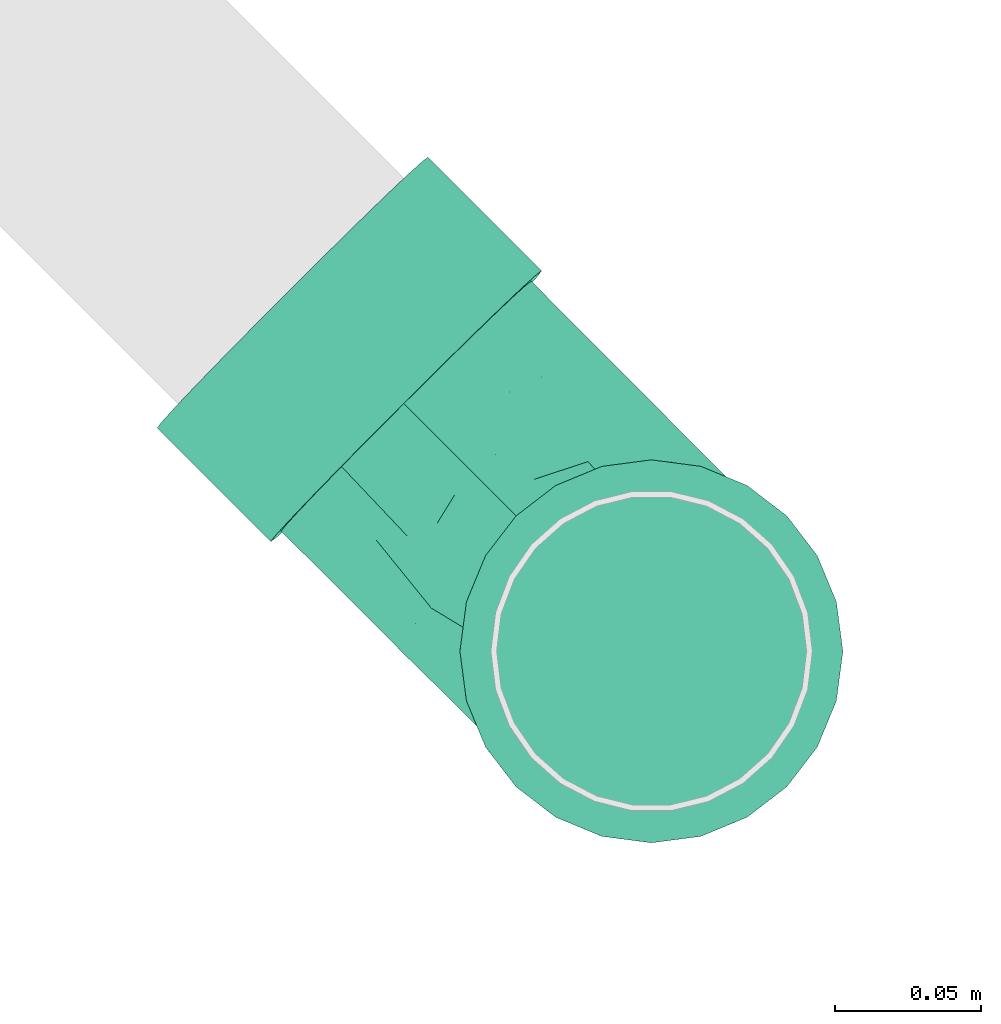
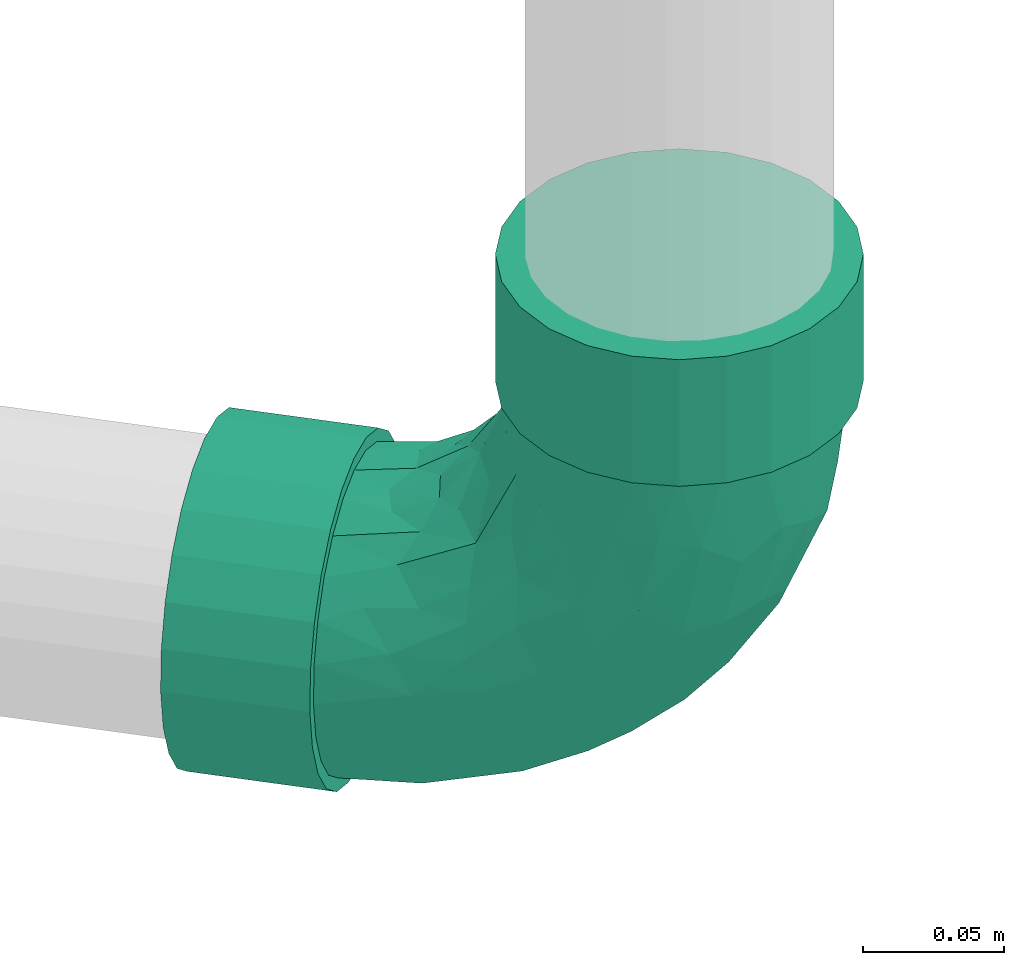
# One storey, part 71 of 83: 1 flow fitting.
"""IFC2X3 building model written with IfcOpenShell, lengths in millimetres."""

import ifcopenshell
import ifcopenshell.guid

model = None  # the IFC model being written
_history = None  # IfcOwnerHistory: only IFC2X3 demands one
_inside = {}  # id of a spatial element -> (the spatial element, [elements in it])
_under = {}  # id of a project, library or spatial element -> (it, [spatial elements below it])
_declared = {}  # id of a project -> (the project, [libraries it declares])
_typed = {}  # id of a type object -> (the type object, [elements of that type])
_made_of = {}  # id of a material, layer set ... -> (it, [elements and type objects made of it])


def new_model(schema):
    """Start an empty IFC model of exactly this schema.

    Asked for "IFC4X3", IfcOpenShell would pick the latest addendum, in which some entities
    have other attributes; the version numbers below select the first issue.
    IFC2X3 requires an IfcOwnerHistory on every rooted entity: one is made here for all.
    """
    global model, _history
    if schema == "IFC4X3":
        model = ifcopenshell.file(schema_version=(4, 3, 0, 0))
    else:
        model = ifcopenshell.file(schema=schema)
    _inside.clear()
    _under.clear()
    _declared.clear()
    _typed.clear()
    _made_of.clear()
    _history = None
    if model.schema == "IFC2X3":
        org = make("IfcOrganization", Name="unknown")
        user = make(
            "IfcPersonAndOrganization",
            ThePerson=make("IfcPerson", FamilyName="unknown"),
            TheOrganization=org,
        )
        app = make(
            "IfcApplication",
            ApplicationDeveloper=org,
            Version="unknown",
            ApplicationFullName="unknown",
            ApplicationIdentifier="unknown",
        )
        _history = make(
            "IfcOwnerHistory",
            OwningUser=user,
            OwningApplication=app,
            ChangeAction="ADDED",
            CreationDate=0,
        )
    return model


def make(cls, **values):
    """One entity of the class cls with the attributes given. An attribute that is None is left unset."""
    return model.create_entity(
        cls, **{name: value for name, value in values.items() if value is not None}
    )


def entity(cls, *values):
    """Any entity or typed value of the class cls, its attributes in the order of the schema. None: left unset."""
    e = model.create_entity(cls)
    for i, value in enumerate(values):
        if value is not None:
            e[i] = value
    return e


def rooted(cls, **values):
    """An entity with a GlobalId (a new one), such as an element, a storey or a relation."""
    return make(cls, GlobalId=ifcopenshell.guid.new(), OwnerHistory=_history, **values)


def si_unit(unit_type, name, prefix=None):
    """IfcSIUnit, for example si_unit("LENGTHUNIT", "METRE", prefix="MILLI")."""
    return make("IfcSIUnit", UnitType=unit_type, Prefix=prefix, Name=name)


def converted_unit(unit_type, name, factor, base, dimensions=None, offset=None):
    """IfcConversionBasedUnit, such as the inch: factor (a typed value) times the base unit."""
    return make(
        "IfcConversionBasedUnit"
        if offset is None
        else "IfcConversionBasedUnitWithOffset",
        ConversionOffset=offset,
        Dimensions=None
        if dimensions is None
        else entity("IfcDimensionalExponents", *dimensions),
        UnitType=unit_type,
        Name=name,
        ConversionFactor=make(
            "IfcMeasureWithUnit", ValueComponent=factor, UnitComponent=base
        ),
    )


def derived_unit(unit_type, elements):
    """IfcDerivedUnit: a product of units, each with its exponent."""
    return make(
        "IfcDerivedUnit",
        Elements=[
            make("IfcDerivedUnitElement", Unit=unit, Exponent=power)
            for unit, power in elements
        ],
        UnitType=unit_type,
    )


def assignment(units):
    """IfcUnitAssignment: the units of a project."""
    return None if units is None else make("IfcUnitAssignment", Units=units)


def point(xyz):
    """IfcCartesianPoint."""
    return None if xyz is None else make("IfcCartesianPoint", Coordinates=xyz)


def direction(xyz):
    """IfcDirection."""
    return None if xyz is None else make("IfcDirection", DirectionRatios=xyz)


def frame(location, z_axis=None, x_axis=None):
    """IfcAxis2Placement3D, a coordinate frame: its origin and axes. An axis left out is left unset."""
    return make(
        "IfcAxis2Placement3D",
        Location=point(location),
        Axis=direction(z_axis),
        RefDirection=direction(x_axis),
    )


def origin_with_axes():
    """The frame at (0, 0, 0) with the z axis (0, 0, 1) and the x axis (1, 0, 0) written out."""
    return frame((0.0, 0.0, 0.0), z_axis=(0.0, 0.0, 1.0), x_axis=(1.0, 0.0, 0.0))


def place(relative_to, where):
    """IfcLocalPlacement: puts the frame where relative to a parent placement (None: the world)."""
    return make(
        "IfcLocalPlacement", PlacementRelTo=relative_to, RelativePlacement=where
    )


def context(
    kind, dimensions, precision=None, world=None, true_north=None, identifier=None
):
    """IfcGeometricRepresentationContext, for example the 3D "Model" context."""
    return make(
        "IfcGeometricRepresentationContext",
        ContextIdentifier=identifier,
        ContextType=kind,
        CoordinateSpaceDimension=dimensions,
        Precision=precision,
        WorldCoordinateSystem=world,
        TrueNorth=true_north,
    )


def subcontext(parent, identifier, kind, view, scale=None):
    """IfcGeometricRepresentationSubContext, for example "Body" below "Model"."""
    return make(
        "IfcGeometricRepresentationSubContext",
        ContextIdentifier=identifier,
        ContextType=kind,
        ParentContext=parent,
        TargetScale=scale,
        TargetView=view,
    )


def project(units=None, contexts=None):
    """IfcProject with its units and contexts."""
    return rooted(
        "IfcProject",
        Name="project",
        RepresentationContexts=contexts,
        UnitsInContext=assignment(units),
    )


def spatial(cls, under=None, at=None, **own):
    """A site, building, storey or space (cls), placed at a placement, below another one or the project."""
    s = rooted(cls, ObjectPlacement=at, **own)
    if under is not None:
        _under.setdefault(under.id(), (under, []))[1].append(s)
    return s


def faces_of(points, faces, orient=None, outer=None):
    """IfcFace entities. A face is a list of loops; a loop is a list of indices into points, from 0.

    orient and outer hold one flag for each loop. By default every Orientation is true, the
    first loop of a face is its IfcFaceOuterBound and the others are IfcFaceBound.
    """
    made = []
    for i, loops in enumerate(faces):
        bounds = []
        for j, loop in enumerate(loops):
            is_outer = j == 0 if outer is None else outer[i][j]
            bounds.append(
                make(
                    "IfcFaceOuterBound" if is_outer else "IfcFaceBound",
                    Bound=make("IfcPolyLoop", Polygon=[points[k] for k in loop]),
                    Orientation=True if orient is None else orient[i][j],
                )
            )
        made.append(make("IfcFace", Bounds=bounds))
    return made


def open_shell(faces, orient=None, outer=None):
    """The faces of one IfcOpenShell. surface_model builds it on its shared points."""
    return ("IfcOpenShell", faces, orient, outer)


def surface_model(cls, points, shells):
    """IfcFaceBasedSurfaceModel or IfcShellBasedSurfaceModel (cls): surfaces that need not close."""
    shared = [point(p) for p in points]
    made = [make(c, CfsFaces=faces_of(shared, fs, o, b)) for c, fs, o, b in shells]
    if cls == "IfcFaceBasedSurfaceModel":
        return make(cls, FbsmFaces=made)
    return make(cls, SbsmBoundary=made)


def shape(context_of_items, identifier, shape_type, items):
    """IfcShapeRepresentation: the items that make up one representation, for example the "Body"."""
    return make(
        "IfcShapeRepresentation",
        ContextOfItems=context_of_items,
        RepresentationIdentifier=identifier,
        RepresentationType=shape_type,
        Items=items,
    )


def source(mapping_origin, context_of_items, identifier, shape_type, items):
    """IfcRepresentationMap: a shape defined once, which mapped items show again and again."""
    return make(
        "IfcRepresentationMap",
        MappingOrigin=mapping_origin,
        MappedRepresentation=shape(context_of_items, identifier, shape_type, items),
    )


def transform(
    local_origin,
    x_axis=None,
    y_axis=None,
    z_axis=None,
    scale=None,
    scale2=None,
    scale3=None,
    uniform=True,
):
    """IfcCartesianTransformationOperator3D, or its non-uniform kind. x_axis, y_axis, z_axis: its Axis1, 2, 3."""
    if uniform:
        return make(
            "IfcCartesianTransformationOperator3D",
            Axis1=direction(x_axis),
            Axis2=direction(y_axis),
            LocalOrigin=point(local_origin),
            Scale=scale,
            Axis3=direction(z_axis),
        )
    return make(
        "IfcCartesianTransformationOperator3DnonUniform",
        Axis1=direction(x_axis),
        Axis2=direction(y_axis),
        LocalOrigin=point(local_origin),
        Scale=scale,
        Axis3=direction(z_axis),
        Scale2=scale2,
        Scale3=scale3,
    )


def mapped(mapping_source, mapping_target):
    """IfcMappedItem: shows the shape of a source again, moved by a transform."""
    return make(
        "IfcMappedItem", MappingSource=mapping_source, MappingTarget=mapping_target
    )


def made_of(thing, what):
    """Note that an element or type object is made of a material, layer set ...; save() writes the relation."""
    if what is not None:
        _made_of.setdefault(what.id(), (what, []))[1].append(thing)
    return thing


def type_object(cls, material=None, **own):
    """A type object (cls), such as IfcWallType, which elements share."""
    return made_of(rooted(cls, **own), material)


def element(
    cls,
    number,
    at=None,
    inside=None,
    cuts=None,
    type_object=None,
    material=None,
    context=None,
    identifier="Body",
    shape_type=None,
    held_by="IfcProductDefinitionShape",
    body=None,
    shapes=None,
    **own,
):
    """One element of the class cls, such as IfcWall. Its Tag is "e" and its number.

    at: its placement. inside: the storey or other place that contains it. cuts: it is an
    opening in that element (IfcRelVoidsElement). A single representation is given by context,
    identifier, shape_type and body (its items); several are given by shapes. held_by: the class
    of the entity that holds the representations. save() writes the other relations.
    """
    e = rooted(cls, Tag="e%d" % number, ObjectPlacement=at, **own)
    if body is not None:
        shapes = [shape(context, identifier, shape_type, body)]
    if shapes is not None:
        e.Representation = make(held_by, Representations=shapes)
    if inside is not None:
        _inside.setdefault(inside.id(), (inside, []))[1].append(e)
    if cuts is not None:
        rooted(
            "IfcRelVoidsElement", RelatingBuildingElement=cuts, RelatedOpeningElement=e
        )
    if type_object is not None:
        _typed.setdefault(type_object.id(), (type_object, []))[1].append(e)
    return made_of(e, material)


def aggregate(whole, parts):
    """IfcRelAggregates: a whole, such as a stair, and the parts it consists of."""
    return rooted("IfcRelAggregates", RelatingObject=whole, RelatedObjects=parts)


def save(model, path):
    """Write the relations noted so far, then the file.

    IfcRelAggregates (storeys below a building ...), IfcRelContainedInSpatialStructure (elements
    in a storey), IfcRelDefinesByType, IfcRelAssociatesMaterial and IfcRelDeclares: one each for
    every whole, place, type object, material and project.
    """
    for whole, parts in _under.values():
        aggregate(whole, parts)
    for where, things in _inside.values():
        rooted(
            "IfcRelContainedInSpatialStructure",
            RelatedElements=things,
            RelatingStructure=where,
        )
    for kind, things in _typed.values():
        rooted("IfcRelDefinesByType", RelatedObjects=things, RelatingType=kind)
    for what, things in _made_of.values():
        rooted("IfcRelAssociatesMaterial", RelatedObjects=things, RelatingMaterial=what)
    for by, libraries in _declared.values():
        rooted("IfcRelDeclares", RelatingContext=by, RelatedDefinitions=libraries)
    model.write(path)


model = new_model("IFC2X3")

# Units and contexts
model_context = context("Model", 3, precision=0.01, world=frame((0.0, 4.29681676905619e-09, 0.0)), true_north=direction((4.01073788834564e-13, 1.0)))
plan_context = context("Plan", 3, precision=0.01, world=frame((0.0, 4.29681676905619e-09, 0.0)), true_north=direction((4.01073788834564e-13, 1.0)))
body_context = subcontext(model_context, "Body", "Model", "MODEL_VIEW")
ifc_project = project(units=[converted_unit("PLANEANGLEUNIT", "DEGREE", entity("IfcPositiveLengthMeasure", 0.0174532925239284), si_unit("PLANEANGLEUNIT", "RADIAN"), dimensions=[0, 0, 0, 0, 0, 0, 0]), si_unit("AREAUNIT", "SQUARE_METRE"), si_unit("LENGTHUNIT", "METRE", prefix="MILLI"), si_unit("MASSUNIT", "GRAM", prefix="KILO"), si_unit("POWERUNIT", "WATT"), si_unit("PRESSUREUNIT", "PASCAL"), si_unit("FORCEUNIT", "NEWTON", prefix="KILO"), si_unit("ELECTRICVOLTAGEUNIT", "VOLT"), si_unit("ELECTRICCURRENTUNIT", "AMPERE"), si_unit("THERMODYNAMICTEMPERATUREUNIT", "DEGREE_CELSIUS"), si_unit("TIMEUNIT", "SECOND"), si_unit("VOLUMEUNIT", "CUBIC_METRE"), derived_unit("LINEARVELOCITYUNIT", [(si_unit("LENGTHUNIT", "METRE"), 1), (si_unit("TIMEUNIT", "SECOND"), -1)]), derived_unit("VOLUMETRICFLOWRATEUNIT", [(si_unit("VOLUMEUNIT", "CUBIC_METRE"), 1), (si_unit("TIMEUNIT", "SECOND"), -1)]), derived_unit("THERMALTRANSMITTANCEUNIT", [(si_unit("POWERUNIT", "WATT"), 1), (si_unit("THERMODYNAMICTEMPERATUREUNIT", "KELVIN"), -1), (si_unit("AREAUNIT", "SQUARE_METRE"), -1)]), derived_unit("SOUNDPRESSUREUNIT", [(si_unit("PRESSUREUNIT", "PASCAL"), 1)])], contexts=[model_context, plan_context])

# Site, building, storey
site_placement = place(None, frame((0.0, -4.29681676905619e-09, 0.0), z_axis=(0.0, 0.0, 1.0), x_axis=(1.0, 0.0, 0.0)))
site = spatial("IfcSite", under=ifc_project, at=site_placement, Name="ENGM", CompositionType="ELEMENT")
building_placement = place(site_placement, frame((0.0, 4.29681676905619e-09, 0.0), z_axis=(0.0, 0.0, 1.0), x_axis=(1.0, 0.0, 0.0)))
building = spatial("IfcBuilding", under=site, at=building_placement, Name="TI", CompositionType="ELEMENT")
storey_placement = place(building_placement, frame((0.0, 0.0, 204000.0), z_axis=(0.0, 0.0, 1.0), x_axis=(1.0, 0.0, 0.0)))
storey = spatial("IfcBuildingStorey", under=building, at=storey_placement, Name="Nivå D", CompositionType="ELEMENT", Elevation=204000.0)

# Flow fitting
pipe_fitting_type = type_object("IfcPipeFittingType", Name="magi_sewer_bend_001", PredefinedType="BEND")
shared_shape = source(origin_with_axes(), body_context, "Body", "SurfaceModel", [
    surface_model("IfcShellBasedSurfaceModel", [(-173.60419, -16.95265, -63.26814), (-173.60419, -32.75, -56.72466), (-173.60419, -46.3155, -46.3155), (-173.60419, -63.26814, -16.95265), (-173.60419, 56.72466, -32.75), (-173.60419, -56.72466, -32.75), (-173.60419, -65.5, 0.0), (-173.60419, 16.95265, -63.26814), (-173.60419, 0.0, -65.5), (-173.60419, 32.75, -56.72466), (-173.60419, 46.3155, -46.3155), (-173.60419, 63.26814, -16.95265), (-173.60419, -63.26814, 16.95265), (-173.60419, -56.72466, 32.75), (-173.60419, -46.3155, 46.3155), (-173.60419, 63.26814, 16.95265), (-173.60419, -16.95265, 63.26814), (-173.60419, 0.0, 65.5), (-173.60419, -32.75, 56.72466), (-173.60419, 46.3155, 46.3155), (-173.60419, 56.72466, 32.75), (-173.60419, 65.5, 0.0), (-173.60419, 16.95265, 63.26814), (-173.60419, 32.75, 56.72466), (-118.6042, -16.95265, 63.26814), (-118.6042, 16.95265, 63.26814), (-118.6042, 0.0, 65.5), (-118.6042, -46.3155, 46.3155), (-118.6042, -32.75, 56.72466), (-118.6042, -56.72466, 32.75), (-118.6042, -63.26814, 16.95265), (-118.6042, 46.3155, 46.3155), (-118.6042, 32.75, 56.72466), (-118.6042, 63.26814, 16.95265), (-118.6042, 56.72466, 32.75), (-118.6042, 63.26814, -16.95265), (-118.6042, 65.5, 0.0), (-118.6042, -63.26814, -16.95265), (-118.6042, 32.75, -56.72466), (-118.6042, -65.5, 0.0), (-118.6042, -16.95265, -63.26814), (-118.6042, -56.72466, -32.75), (-118.6042, -46.3155, -46.3155), (-118.6042, -32.75, -56.72466), (-118.6042, 0.0, -65.5), (-118.6042, 46.3155, -46.3155), (-118.6042, 56.72466, -32.75), (-118.6042, 16.95265, -63.26814), (-59.7841, 174.8346, 16.95265), (-53.24193, 174.70376, 32.75), (-42.83484, 174.49562, 46.3155), (-29.27206, 174.22436, 56.72466), (-13.47787, 173.90848, 63.26814), (-62.01551, 174.87922, 0.0), (3.47139, 173.56949, 65.5), (-59.7841, 174.8346, -16.95265), (-42.83484, 174.49562, -46.3155), (-53.24193, 174.70376, -32.75), (-29.27206, 174.22436, -56.72466), (-13.47787, 173.90848, -63.26814), (20.42065, 173.23051, 63.26814), (36.21484, 172.91463, 56.72466), (49.77763, 172.64337, 46.3155), (20.42065, 173.23051, -63.26814), (66.72688, 172.30438, 16.95265), (68.9583, 172.25974, 0.0), (60.18471, 172.43522, 32.75), (49.77763, 172.64337, -46.3155), (36.21484, 172.91463, -56.72466), (3.47139, 173.56949, -65.5), (66.72688, 172.30438, -16.95265), (60.18471, 172.43522, -32.75), (65.6271, 117.31538, 16.95265), (19.32087, 118.2415, -63.26814), (67.85851, 117.27075, 0.0), (48.67784, 117.65436, 46.3155), (59.08493, 117.44622, 32.75), (35.11506, 117.92561, 56.72466), (19.32087, 118.2415, 63.26814), (-30.37184, 119.23535, -56.72466), (65.6271, 117.31538, -16.95265), (48.67784, 117.65436, -46.3155), (59.08493, 117.44622, -32.75), (35.11506, 117.92561, -56.72466), (2.37161, 118.58048, -65.5), (-14.57765, 118.91947, 63.26814), (-60.88388, 119.84559, 16.95265), (-30.37184, 119.23535, 56.72466), (-43.93462, 119.5066, 46.3155), (-54.34171, 119.71475, 32.75), (-43.93462, 119.5066, -46.3155), (-14.57765, 118.91947, -63.26814), (-60.88388, 119.84559, -16.95265), (-54.34171, 119.71475, -32.75), (-63.11529, 119.89022, 0.0), (2.37161, 118.58048, 65.5), (-118.6042, 15.65855, -58.43851), (-118.6042, 0.0, -60.5), (-118.6042, 58.43851, -15.65855), (-118.6042, 30.25, -52.39454), (-118.6042, 52.39454, -30.25), (-118.6042, 42.77996, -42.77996), (-118.6042, -60.5, 0.0), (-118.6042, -30.25, -52.39454), (-118.6042, -42.77996, -42.77996), (-118.6042, -15.65855, -58.43851), (-118.6042, -58.43851, -15.65855), (-118.6042, -52.39454, -30.25), (-118.6042, -58.43851, 15.65855), (-118.6042, 58.43851, 15.65855), (-118.6042, 52.39454, 30.25), (-118.6042, 42.77996, 42.77996), (-118.6042, 30.25, 52.39454), (-118.6042, 15.65855, 58.43851), (-118.6042, -52.39454, 30.25), (-118.6042, -42.77996, 42.77996), (-118.6042, -30.25, 52.39454), (-118.6042, -15.65855, 58.43851), (-118.6042, 0.0, 60.5), (-118.6042, 60.5, 0.0), (-56.05522, 119.74902, -15.65855), (2.37161, 118.58048, -60.5), (-13.28381, 118.8936, -58.43851), (-40.3998, 119.43591, -42.77996), (-27.87234, 119.18537, -52.39454), (-50.01245, 119.62816, -30.25), (45.14302, 117.72505, -42.77996), (18.02703, 118.26737, -58.43851), (32.61556, 117.9756, -52.39454), (54.75567, 117.53281, -30.25), (62.85951, 117.37072, 0.0), (60.79844, 117.41195, -15.65855), (-56.05522, 119.74902, 15.65855), (60.79844, 117.41195, 15.65855), (-40.3998, 119.43591, 42.77996), (-50.01245, 119.62816, 30.25), (-27.87234, 119.18537, 52.39454), (2.37161, 118.58048, 60.5), (-13.28381, 118.8936, 58.43851), (45.14302, 117.72505, 42.77996), (54.75567, 117.53281, 30.25), (32.61556, 117.9756, 52.39454), (18.02703, 118.26737, 58.43851), (-58.11629, 119.79024, 0.0), (-86.57674, -47.00644, 34.01552), (-80.37521, -53.23669, 19.17393), (-72.21311, -54.47113, 0.0), (-88.68988, -56.61241, 0.0), (39.25546, 49.68003, 30.54518), (28.66616, 46.27335, 41.37068), (27.16995, 25.74946, 28.93082), (15.81257, 44.81273, 50.37401), (15.1627, 18.9902, 37.81625), (-86.51062, -22.83864, 54.44796), (-45.11996, -14.91333, 50.37401), (-58.5762, -0.72667, 58.68119), (36.34931, 76.09575, 45.09809), (-76.80738, -34.82043, 45.09809), (-43.14835, -41.90419, 15.30942), (-50.55853, -45.62808, 0.0), (-28.90396, -36.78503, 0.0), (-59.68998, 103.8016, 10.24181), (-68.39392, 84.76915, 13.0184), (-54.83102, 104.17543, 25.10611), (-102.68773, 36.62489, 49.25096), (-92.38842, 50.40649, 39.65018), (-81.41542, 68.6004, 20.98262), (-71.9465, 71.1947, 29.61857), (-19.83, 58.4093, 60.36332), (-43.3625, 44.23842, 58.9718), (-34.92514, 25.87888, 60.23189), (-90.44261, -8.02095, 59.48073), (-20.53966, 102.73187, 56.64587), (-6.53824, 88.44842, 60.34684), (-82.62908, 9.2652, 60.39181), (-85.90186, 60.08738, 31.15089), (-99.15818, 59.71211, 21.10068), (-103.11486, 61.65642, 9.99729), (-83.99312, 70.39369, 9.86726), (-26.2876, -26.64963, 28.93082), (-19.2896, -14.77994, 37.81625), (-46.77184, -27.4798, 41.58458), (-76.25411, 77.79444, 0.0), (-95.73157, 64.99024, 0.0), (-90.95529, 23.75207, 57.13424), (-14.57879, 38.91388, 59.39465), (-28.43074, 10.99116, 56.64774), (-4.57001, 31.69489, 55.60405), (-9.71238, 9.90857, 49.65779), (44.27483, 45.29375, 14.99022), (55.90421, 71.10946, 0.0), (54.83322, 79.29461, 19.17393), (-64.65938, 25.63342, 59.40981), (-57.82067, 14.72053, 60.48301), (48.72823, 85.61949, 34.01552), (9.82784, 90.26414, 59.48073), (-50.45505, -38.25421, 30.54518), (58.37453, 87.54012, 0.0), (-47.88788, 76.22338, 47.63385), (-47.7188, 96.45268, 39.31497), (-62.34977, 66.67687, 42.76198), (-24.45504, 80.66922, 57.57755), (-63.063, 97.01197, 0.0), (-36.39399, 92.2245, 50.11081), (-43.92336, 64.58333, 53.93727), (24.56394, 86.03664, 54.44796), (-62.88992, 40.49657, 55.91736), (-62.77044, 53.82504, 50.27797), (-81.60697, 40.88913, 50.86379), (-33.60348, 61.8567, 57.92947), (1.89781, 58.54996, 58.68119), (6.58024, -6.71317, 17.75991), (-10.22895, -22.70085, 0.0), (8.44606, -8.61667, 0.0), (23.47994, 12.83656, 18.59969), (13.59847, 6.43456, 27.40623), (-13.3035, -23.21857, 18.59969), (22.90085, 9.77298, 0.0), (-0.41884, 0.4273, 37.04023), (-3.35876, -9.95111, 28.36013), (37.35564, 28.16263, 0.0), (-60.36607, 85.23563, 29.79083), (46.62993, 49.63605, 0.0), (-99.17872, 36.97075, -49.52136), (-46.8373, -27.73515, -41.37068), (-45.11996, -14.91333, -50.37401), (-19.2896, -14.77994, -37.81625), (-88.29999, 8.30555, -60.34684), (24.56394, 86.03664, -54.44796), (15.81257, 44.81273, -50.37401), (1.89781, 58.54996, -58.68119), (-102.30062, 22.58978, -56.64587), (-68.39392, 84.76915, -13.01839), (-98.59644, 61.7701, -15.49507), (-59.68998, 103.8016, -10.24181), (-83.99312, 70.39369, -9.86726), (-50.45505, -38.25421, -30.54518), (-26.2876, -26.64963, -28.93081), (-56.67049, 47.97678, -54.97924), (-61.06812, 34.39679, -58.05474), (-76.02014, 43.80703, -50.81116), (-76.80738, -34.82043, -45.09809), (-58.0011, 20.99399, -60.36332), (-43.3625, 44.23842, -58.9718), (-25.17534, 35.43563, -60.23189), (-91.94397, 50.52819, -39.69857), (-80.37521, -53.23669, -19.17393), (-57.59908, 99.94603, -21.72707), (-59.54819, 85.78356, -30.51451), (-39.23093, 63.68711, -55.91736), (-21.92858, 91.41204, -57.13424), (-24.33537, 65.15901, -59.40981), (-86.57674, -47.00644, -34.01552), (-13.56141, 58.10346, -60.48301), (-86.51062, -22.83864, -54.44796), (-61.7595, 55.92844, -49.63222), (-39.24914, 82.40827, -50.86379), (-46.17002, -43.36028, -14.99022), (36.34931, 76.09575, -45.09809), (28.40956, 46.213, -41.58458), (-90.44261, -8.02095, -59.48073), (-95.92373, 57.383, -28.32277), (-75.7824, 65.39586, -32.82972), (48.72823, 85.61949, -34.01552), (39.25546, 49.68003, -30.54518), (-81.41542, 68.6004, -20.98262), (-7.6111, 82.79782, -60.39181), (27.16995, 25.74946, -28.93081), (15.1627, 18.9902, -37.81625), (-34.56422, 103.39955, -49.25096), (54.83322, 79.29461, -19.17393), (9.82784, 90.26414, -59.48073), (-50.96853, 78.69792, -44.28035), (-47.41487, 97.72425, -39.17701), (-38.61458, 15.35399, -59.39465), (-10.42046, 28.64483, -56.64774), (-31.59717, 5.20286, -55.60405), (42.75861, 42.30181, -15.30942), (-3.35876, -9.95111, -28.36012), (-13.3035, -23.21858, -18.59969), (-80.16409, 26.06321, -57.57755), (-65.41679, 63.67057, -42.76198), (-58.5762, -0.72667, -58.68119), (-9.71238, 9.90857, -49.65779), (6.58024, -6.71317, -17.75991), (13.59847, 6.43456, -27.40623), (-0.41884, 0.4273, -37.04022), (23.47995, 12.83656, -18.59969)], [open_shell([[[0, 1, 2]], [[0, 2, 3]], [[0, 3, 4]], [[3, 2, 5]], [[4, 3, 6]], [[0, 7, 8]], [[0, 9, 7]], [[10, 9, 0]], [[0, 4, 10]], [[6, 11, 4]], [[6, 12, 11]], [[12, 13, 14]], [[11, 14, 15]], [[16, 17, 14]], [[16, 14, 18]], [[15, 14, 17]], [[15, 19, 20]], [[21, 11, 15]], [[19, 22, 23]], [[22, 19, 15]], [[17, 22, 15]], [[11, 12, 14]], [[24, 25, 26]], [[27, 24, 28]], [[27, 29, 30]], [[24, 27, 25]], [[30, 25, 27]], [[25, 31, 32]], [[31, 25, 33]], [[31, 33, 34]], [[25, 30, 33]], [[33, 35, 36]], [[33, 30, 35]], [[37, 38, 39]], [[40, 37, 41]], [[42, 43, 40]], [[42, 40, 41]], [[44, 37, 40]], [[39, 45, 46]], [[46, 35, 39]], [[38, 44, 47]], [[38, 45, 39]], [[38, 37, 44]], [[39, 35, 30]], [[35, 11, 36]], [[46, 4, 35]], [[47, 44, 7]], [[45, 10, 46]], [[35, 4, 11]], [[11, 21, 36]], [[9, 38, 7]], [[9, 10, 45]], [[38, 47, 7]], [[10, 4, 46]], [[45, 38, 9]], [[44, 8, 7]], [[0, 40, 43]], [[42, 1, 43]], [[5, 41, 37]], [[42, 41, 2]], [[3, 37, 39]], [[40, 0, 8]], [[43, 1, 0]], [[42, 2, 1]], [[41, 5, 2]], [[3, 5, 37]], [[39, 6, 3]], [[40, 8, 44]], [[30, 12, 39]], [[29, 13, 30]], [[28, 18, 27]], [[27, 14, 29]], [[30, 13, 12]], [[12, 6, 39]], [[17, 16, 24]], [[16, 18, 28]], [[14, 27, 18]], [[14, 13, 29]], [[24, 16, 28]], [[24, 26, 17]], [[22, 25, 32]], [[31, 23, 32]], [[20, 34, 33]], [[31, 34, 19]], [[15, 33, 36]], [[25, 22, 17]], [[32, 23, 22]], [[31, 19, 23]], [[34, 20, 19]], [[15, 20, 33]], [[36, 21, 15]], [[25, 17, 26]], [[48, 49, 50]], [[48, 50, 51]], [[48, 52, 53]], [[52, 48, 51]], [[53, 52, 54]], [[55, 56, 57]], [[56, 55, 53]], [[54, 56, 53]], [[54, 58, 56]], [[54, 59, 58]], [[54, 60, 59]], [[60, 61, 62]], [[63, 60, 62]], [[64, 65, 62]], [[64, 62, 66]], [[63, 62, 65]], [[63, 67, 68]], [[69, 59, 63]], [[67, 70, 71]], [[70, 67, 63]], [[65, 70, 63]], [[63, 59, 60]], [[72, 73, 74]], [[75, 72, 76]], [[75, 77, 78]], [[72, 75, 73]], [[73, 75, 79]], [[80, 81, 82]], [[81, 80, 73]], [[81, 73, 83]], [[80, 74, 73]], [[73, 79, 84]], [[75, 78, 85]], [[75, 85, 79]], [[86, 85, 87]], [[88, 89, 86]], [[88, 86, 87]], [[79, 85, 86]], [[86, 90, 79]], [[91, 84, 79]], [[86, 92, 93]], [[90, 86, 93]], [[92, 86, 94]], [[85, 78, 95]], [[91, 59, 84]], [[79, 58, 91]], [[92, 94, 55]], [[90, 56, 79]], [[91, 58, 59]], [[59, 69, 84]], [[57, 93, 55]], [[57, 56, 90]], [[93, 92, 55]], [[56, 58, 79]], [[90, 93, 57]], [[94, 53, 55]], [[48, 86, 89]], [[88, 49, 89]], [[51, 87, 85]], [[88, 87, 50]], [[52, 85, 95]], [[86, 48, 53]], [[89, 49, 48]], [[88, 50, 49]], [[87, 51, 50]], [[52, 51, 85]], [[95, 54, 52]], [[86, 53, 94]], [[78, 60, 95]], [[77, 61, 78]], [[76, 66, 75]], [[75, 62, 77]], [[78, 61, 60]], [[60, 54, 95]], [[65, 64, 72]], [[64, 66, 76]], [[62, 75, 66]], [[62, 61, 77]], [[72, 64, 76]], [[72, 74, 65]], [[70, 80, 82]], [[81, 71, 82]], [[68, 83, 73]], [[81, 83, 67]], [[63, 73, 84]], [[80, 70, 65]], [[82, 71, 70]], [[81, 67, 71]], [[83, 68, 67]], [[63, 68, 73]], [[84, 69, 63]], [[80, 65, 74]], [[96, 97, 98]], [[99, 96, 98]], [[98, 100, 101]], [[99, 98, 101]], [[102, 98, 97]], [[103, 104, 105]], [[104, 97, 105]], [[106, 102, 107]], [[104, 107, 102]], [[104, 102, 97]], [[102, 108, 98]], [[109, 98, 108]], [[110, 109, 111]], [[112, 109, 108]], [[111, 109, 112]], [[113, 112, 108]], [[114, 115, 108]], [[116, 108, 115]], [[117, 118, 116]], [[108, 116, 118]], [[118, 113, 108]], [[119, 98, 109]], [[120, 121, 122]], [[123, 122, 124]], [[123, 125, 120]], [[123, 120, 122]], [[121, 120, 126]], [[127, 126, 128]], [[127, 121, 126]], [[129, 130, 131]], [[130, 129, 126]], [[120, 130, 126]], [[120, 132, 130]], [[133, 130, 132]], [[134, 132, 135]], [[132, 136, 137]], [[136, 132, 134]], [[138, 137, 136]], [[133, 139, 140]], [[139, 133, 141]], [[133, 142, 141]], [[142, 133, 137]], [[133, 132, 137]], [[132, 120, 143]], [[144, 114, 145]], [[146, 145, 147]], [[148, 149, 150]], [[145, 114, 108]], [[108, 147, 145]], [[149, 151, 152]], [[115, 114, 144]], [[153, 154, 155]], [[156, 139, 141]], [[157, 116, 115]], [[157, 153, 116]], [[158, 159, 160]], [[161, 162, 163]], [[111, 164, 165]], [[162, 166, 167]], [[110, 111, 165]], [[168, 169, 170]], [[112, 164, 111]], [[117, 171, 118]], [[138, 172, 173]], [[118, 174, 113]], [[175, 176, 110]], [[149, 148, 156]], [[119, 109, 177]], [[166, 178, 177]], [[179, 180, 181]], [[182, 183, 178]], [[184, 113, 174]], [[113, 184, 112]], [[185, 186, 187]], [[188, 154, 180]], [[166, 177, 176]], [[189, 190, 191]], [[192, 193, 170]], [[148, 191, 194]], [[184, 164, 112]], [[189, 191, 148]], [[142, 137, 195]], [[144, 196, 157]], [[191, 133, 140]], [[132, 163, 135]], [[194, 191, 140]], [[145, 146, 159]], [[191, 197, 133]], [[140, 139, 194]], [[198, 199, 200]], [[201, 168, 173]], [[178, 162, 182]], [[118, 171, 174]], [[202, 161, 143]], [[136, 134, 203]], [[182, 162, 202]], [[175, 167, 166]], [[203, 201, 172]], [[204, 201, 203]], [[135, 163, 199]], [[205, 141, 142]], [[116, 153, 117]], [[156, 205, 151]], [[136, 172, 138]], [[137, 138, 173]], [[154, 157, 181]], [[161, 202, 162]], [[156, 141, 205]], [[206, 184, 192]], [[198, 207, 204]], [[207, 165, 208]], [[176, 175, 166]], [[199, 134, 135]], [[201, 204, 209]], [[201, 209, 168]], [[195, 173, 210]], [[154, 153, 157]], [[171, 153, 155]], [[154, 181, 180]], [[154, 188, 186]], [[195, 205, 142]], [[210, 187, 151]], [[210, 151, 205]], [[151, 188, 152]], [[211, 212, 213]], [[211, 214, 215]], [[216, 158, 160]], [[211, 217, 214]], [[180, 218, 188]], [[219, 180, 179]], [[150, 215, 214]], [[189, 214, 220]], [[196, 144, 145]], [[157, 115, 144]], [[139, 156, 194]], [[148, 194, 156]], [[192, 184, 174]], [[164, 184, 208]], [[177, 178, 183]], [[162, 178, 166]], [[119, 177, 183]], [[177, 109, 176]], [[109, 110, 176]], [[175, 110, 165]], [[165, 200, 175]], [[167, 200, 221]], [[203, 198, 204]], [[206, 207, 208]], [[192, 170, 169]], [[210, 173, 168]], [[186, 170, 155]], [[168, 170, 185]], [[173, 195, 137]], [[205, 195, 210]], [[153, 171, 117]], [[174, 171, 155]], [[200, 199, 221]], [[203, 134, 199]], [[192, 174, 193]], [[206, 192, 169]], [[204, 206, 169]], [[184, 206, 208]], [[204, 207, 206]], [[165, 207, 200]], [[174, 155, 193]], [[155, 170, 193]], [[200, 167, 175]], [[162, 167, 221]], [[154, 186, 155]], [[187, 186, 188]], [[151, 187, 188]], [[185, 187, 210]], [[168, 185, 210]], [[186, 185, 170]], [[163, 162, 221]], [[143, 161, 132]], [[108, 102, 147]], [[197, 191, 190]], [[197, 130, 133]], [[165, 164, 208]], [[203, 172, 136]], [[173, 172, 201]], [[161, 163, 132]], [[199, 163, 221]], [[216, 179, 158]], [[159, 158, 145]], [[145, 158, 196]], [[189, 148, 150]], [[189, 222, 190]], [[157, 196, 181]], [[179, 181, 196]], [[158, 179, 196]], [[219, 179, 216]], [[219, 216, 211]], [[218, 180, 219]], [[211, 216, 212]], [[204, 169, 209]], [[215, 218, 219]], [[188, 218, 152]], [[216, 160, 212]], [[151, 149, 156]], [[150, 149, 152]], [[152, 218, 215]], [[189, 150, 214]], [[152, 215, 150]], [[211, 215, 219]], [[217, 211, 213]], [[217, 220, 214]], [[168, 209, 169]], [[199, 198, 203]], [[207, 198, 200]], [[189, 220, 222]], [[99, 101, 223]], [[224, 225, 226]], [[97, 96, 227]], [[228, 229, 230]], [[96, 99, 231]], [[182, 202, 232]], [[183, 233, 119]], [[202, 234, 232]], [[235, 233, 183]], [[236, 224, 237]], [[238, 239, 240]], [[241, 224, 236]], [[242, 243, 244]], [[100, 245, 101]], [[107, 246, 106]], [[247, 125, 248]], [[246, 147, 106]], [[249, 250, 251]], [[246, 107, 252]], [[251, 253, 244]], [[241, 103, 254]], [[249, 255, 256]], [[245, 240, 223]], [[131, 130, 197]], [[257, 146, 246]], [[229, 258, 259]], [[260, 105, 97]], [[236, 246, 252]], [[241, 254, 225]], [[245, 261, 262]], [[182, 235, 183]], [[263, 264, 258]], [[265, 235, 232]], [[250, 122, 266]], [[120, 234, 143]], [[267, 268, 259]], [[254, 103, 105]], [[265, 232, 248]], [[124, 269, 123]], [[263, 129, 270]], [[124, 122, 250]], [[121, 271, 266]], [[241, 104, 103]], [[272, 248, 273]], [[125, 273, 248]], [[121, 127, 271]], [[126, 258, 128]], [[96, 231, 227]], [[274, 275, 276]], [[222, 220, 277]], [[237, 278, 279]], [[228, 128, 258]], [[270, 129, 131]], [[280, 242, 227]], [[270, 197, 190]], [[107, 104, 252]], [[125, 123, 273]], [[197, 270, 131]], [[128, 228, 127]], [[129, 263, 126]], [[121, 266, 122]], [[233, 261, 98]], [[257, 246, 236]], [[281, 262, 248]], [[270, 190, 222]], [[232, 234, 247]], [[261, 233, 265]], [[240, 245, 281]], [[280, 239, 242]], [[260, 227, 282]], [[260, 254, 105]], [[282, 276, 225]], [[282, 225, 254]], [[225, 283, 226]], [[229, 228, 258]], [[271, 228, 230]], [[229, 259, 268]], [[229, 283, 275]], [[268, 283, 229]], [[284, 212, 279]], [[285, 268, 267]], [[257, 279, 160]], [[284, 217, 213]], [[283, 268, 286]], [[287, 277, 220]], [[278, 284, 279]], [[104, 241, 252]], [[236, 252, 241]], [[264, 263, 270]], [[258, 126, 263]], [[251, 250, 266]], [[269, 250, 256]], [[249, 238, 255]], [[280, 231, 223]], [[232, 235, 182]], [[233, 235, 265]], [[262, 261, 265]], [[233, 98, 119]], [[245, 100, 261]], [[98, 261, 100]], [[251, 244, 243]], [[282, 227, 242]], [[275, 244, 230]], [[242, 244, 274]], [[227, 260, 97]], [[254, 260, 282]], [[228, 271, 127]], [[266, 271, 230]], [[248, 262, 265]], [[245, 262, 281]], [[269, 273, 123]], [[272, 273, 256]], [[251, 266, 253]], [[249, 251, 243]], [[238, 249, 243]], [[250, 249, 256]], [[239, 238, 243]], [[255, 238, 240]], [[266, 230, 253]], [[230, 244, 253]], [[242, 239, 243]], [[240, 239, 280]], [[240, 281, 255]], [[255, 281, 272]], [[245, 223, 101]], [[280, 223, 240]], [[229, 275, 230]], [[276, 275, 283]], [[225, 276, 283]], [[274, 276, 282]], [[242, 274, 282]], [[275, 274, 244]], [[143, 234, 202]], [[247, 234, 120]], [[125, 247, 120]], [[232, 247, 248]], [[147, 246, 146]], [[147, 102, 106]], [[250, 269, 124]], [[273, 269, 256]], [[223, 231, 99]], [[227, 231, 280]], [[257, 236, 237]], [[257, 159, 146]], [[287, 267, 277]], [[222, 277, 270]], [[270, 277, 264]], [[225, 224, 241]], [[237, 224, 226]], [[278, 237, 226]], [[257, 237, 279]], [[286, 278, 226]], [[278, 285, 284]], [[284, 287, 217]], [[258, 264, 259]], [[283, 286, 226]], [[285, 286, 268]], [[212, 284, 213]], [[212, 160, 279]], [[267, 259, 264]], [[277, 267, 264]], [[285, 267, 287]], [[284, 285, 287]], [[285, 278, 286]], [[287, 220, 217]], [[255, 272, 256]], [[248, 272, 281]], [[257, 160, 159]]])]),
])
flow_fitting_placement = place(storey_placement, frame((609839.74852, 693872.48667, 6254.15753999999), z_axis=(-0.707106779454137, -0.707106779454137, 6.9999978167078e-05), x_axis=(0.706966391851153, -0.706964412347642, 0.0199960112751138)))
element("IfcFlowFitting", 1, at=flow_fitting_placement, inside=storey, type_object=pipe_fitting_type, Name="magi_sewer_bend_001", context=body_context, shape_type="MappedRepresentation", body=[
    mapped(shared_shape, transform((0.0, 0.0, 0.0), scale=1.0)),
])

save(model, "model.ifc")
